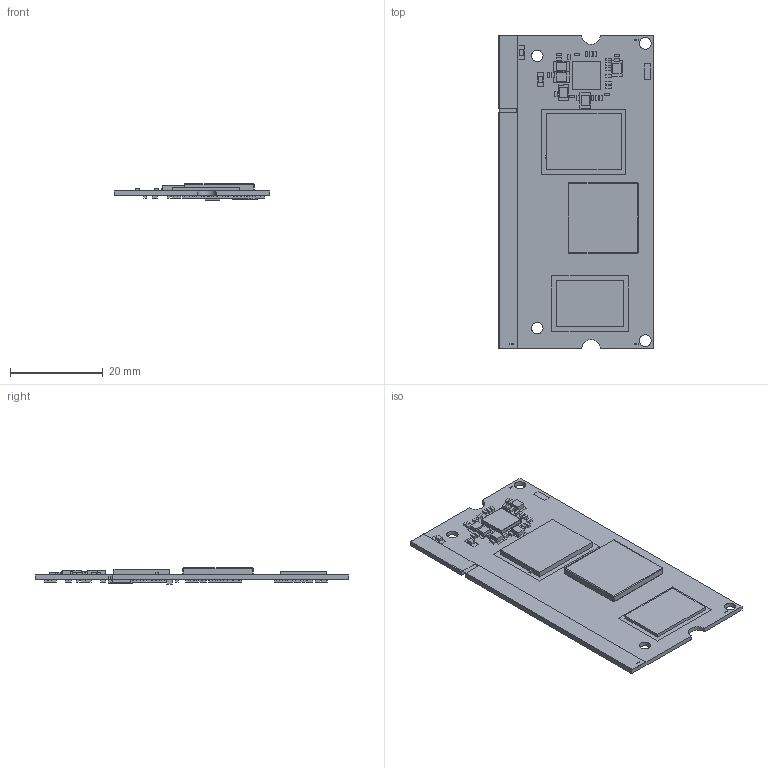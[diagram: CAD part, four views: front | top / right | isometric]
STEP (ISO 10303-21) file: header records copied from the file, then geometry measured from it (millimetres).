
FILE_DESCRIPTION(('STEP AP214'),'1');
FILE_NAME('sk_t507_sodimm.step','2024-08-29T10:40:11',(' '),(' '),'Spatial InterOp 3D','XD3DPlugin XRACreate',' ');
FILE_SCHEMA(('automotive_design'));
Length unit declared in the file: millimetre
Products named in the file (102): DesignRootModel; uid__7871903; Submodel-noModelForPart_CAP_0402_3511803187; placementOutline; Submodel-CAP_0402_3511803187_part_CAPC1005X56N; Submodel-noModelForPart_RES_0402_1541938758; Submodel-RES_0402_1541938758_part_RESC1005X40BN; Submodel-noModelForPart_CAP_0402_2051605626; Submodel-CAP_0402_2051605626_part_CAPC1005X56N; Submodel-noModelForPart_RES_0402_2157919439; Submodel-RES_0402_2157919439_part_RESC1005X40BN; Submodel-noModelForPart_CAP_0402_2271991565; Submodel-CAP_0402_2271991565_part_CAPC1005X56N; Submodel-noModelForPart_RES_0402_1129422897; Submodel-RES_0402_1129422897_part_RESC1005X40BN; Submodel-noModelForPart_CKP2016_1526931050; Submodel-CKP2016_1526931050_part_INDC2016X100N; Submodel-noModelForPart_CKP2016_2638580646; Submodel-CKP2016_2638580646_part_INDC2016X100N; Submodel-noModelForPart_CAP_0402_872604882; Submodel-CAP_0402_872604882_part_CAPC1005X56N; Submodel-noModelForPart_CKP2016_273795926; Submodel-CKP2016_273795926_part_INDC2016X100N; Submodel-noModelForPart_SO-DIMM_1529171325; Submodel-SO-DIMM_1529171325_part_SODIMM; Submodel-noModelForPart_CAP_0402_1129422897; Submodel-CAP_0402_1129422897_part_CAPC1005X56N; Submodel-noModelForPart_CAP_0402_2733613542; Submodel-CAP_0402_2733613542_part_CAPC1005X56N; Submodel-noModelForPart_CAP_0402_1541938758; Submodel-CAP_0402_1541938758_part_CAPC1005X56N; Submodel-noModelForPart_PLS2-2_1742565066; Submodel-PLS2-2_1742565066_part_PLS2-2; Submodel-noModelForPart_REF_1669745000; Submodel-REF_1669745000_part_REF; Submodel-noModelForPart_ESD5B5.0ST1G_3692629532; Submodel-ESD5B5.0ST1G_3692629532_part_SOD1608X60N; Submodel-noModelForPart_ESD5B5.0ST1G_251206294; Submodel-ESD5B5.0ST1G_251206294_part_SOD1608X60N; Submodel-noModelForPart_IP101GR_2927283829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
Assembly tree (227 placements, depth 5):
  ProductRootModel
    DesignRootModel
      uid__7871903
      Submodel-CAP_0402_3511803187_part_CAPC1005X56N  x9
        Submodel-noModelForPart_CAP_0402_3511803187
          placementOutline
      Submodel-RES_0402_1541938758_part_RESC1005X40BN  x13
        Submodel-noModelForPart_RES_0402_1541938758
          placementOutline
      Submodel-CAP_0402_2051605626_part_CAPC1005X56N  x9
        Submodel-noModelForPart_CAP_0402_2051605626
          placementOutline
      Submodel-RES_0402_2157919439_part_RESC1005X40BN  x8
        Submodel-noModelForPart_RES_0402_2157919439
          placementOutline
      Submodel-CAP_0402_2271991565_part_CAPC1005X56N  x6
        Submodel-noModelForPart_CAP_0402_2271991565
          placementOutline
      Submodel-RES_0402_1129422897_part_RESC1005X40BN  x7
        Submodel-noModelForPart_RES_0402_1129422897
          placementOutline
      Submodel-CKP2016_1526931050_part_INDC2016X100N  x2
        Submodel-noModelForPart_CKP2016_1526931050
          placementOutline
          placementOutline
      Submodel-CKP2016_2638580646_part_INDC2016X100N  x2
        Submodel-noModelForPart_CKP2016_2638580646
          placementOutline
          placementOutline
      Submodel-CAP_0402_872604882_part_CAPC1005X56N  x2
        Submodel-noModelForPart_CAP_0402_872604882
          placementOutline
      Submodel-CKP2016_273795926_part_INDC2016X100N
        Submodel-noModelForPart_CKP2016_273795926
          placementOutline
          placementOutline
      Submodel-SO-DIMM_1529171325_part_SODIMM
        Submodel-noModelForPart_SO-DIMM_1529171325
          placementOutline
      Submodel-CAP_0402_1129422897_part_CAPC1005X56N  x21
        Submodel-noModelForPart_CAP_0402_1129422897
          placementOutline
      Submodel-CAP_0402_2733613542_part_CAPC1005X56N  x18
        Submodel-noModelForPart_CAP_0402_2733613542
          placementOutline
      Submodel-CAP_0402_1541938758_part_CAPC1005X56N  x18
        Submodel-noModelForPart_CAP_0402_1541938758
          placementOutline
      Submodel-PLS2-2_1742565066_part_PLS2-2
        Submodel-noModelForPart_PLS2-2_1742565066
          placementOutline
      Submodel-REF_1669745000_part_REF  x3
        Submodel-noModelForPart_REF_1669745000
          placementOutline
      Submodel-ESD5B5.0ST1G_3692629532_part_SOD1608X60N
        Submodel-noModelForPart_ESD5B5.0ST1G_3692629532
          placementOutline
          placementOutline
      Submodel-ESD5B5.0ST1G_251206294_part_SOD1608X60N
        Submodel-noModelForPart_ESD5B5.0ST1G_251206294
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Bounding box: 33.5 x 67.6 x 3.46 mm (x, y, z)
Volume: 3031.1 mm3; surface area: 8533.3 mm2
Topology: 170 solids, 170 shells, 1057 faces, 2135 edges, 1410 vertices
Faces by surface type: plane 1025, cylinder 24, sphere 8
Full cylindrical faces by diameter (mm): 2.5 x4
Entity records: 13708 total; most frequent: DIRECTION 1787, CARTESIAN_POINT 1549, ORIENTED_EDGE 1174, AXIS2_PLACEMENT_3D 624, EDGE_CURVE 587, LINE 539, VECTOR 539, VERTEX_POINT 386
